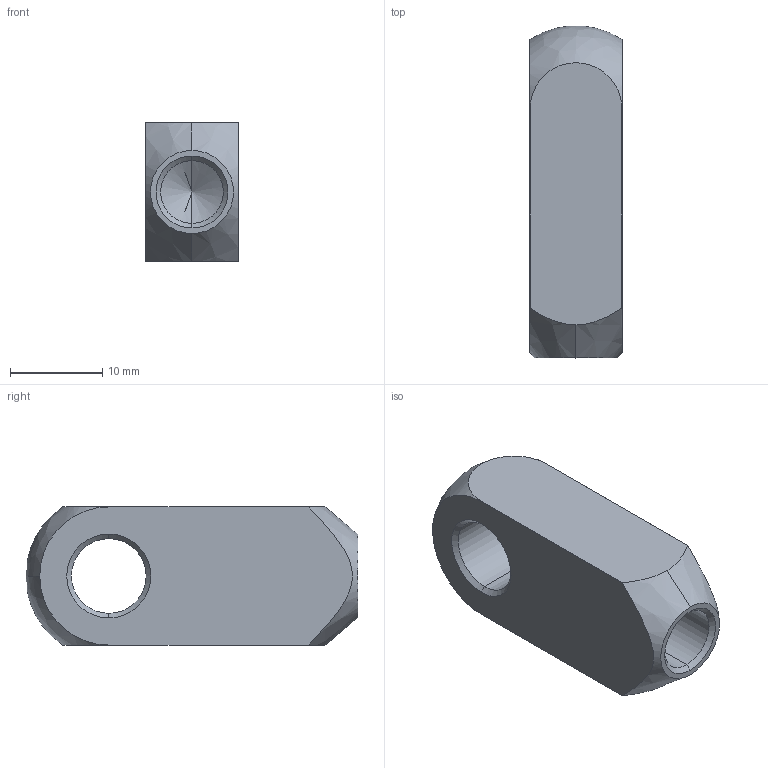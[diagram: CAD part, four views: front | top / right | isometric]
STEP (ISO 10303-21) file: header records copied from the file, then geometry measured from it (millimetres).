
FILE_DESCRIPTION (( 'STEP AP214' ), '1' );
FILE_NAME ('18.08A1FASE27.STEP', '2017-10-21T13:16:19', ( '' ), ( '' ), 'SwSTEP 2.0', 'SolidWorks 2016', '' );
FILE_SCHEMA (( 'AUTOMOTIVE_DESIGN' ));
Length unit declared in the file: millimetre
Products named in the file (1): 18.08A1FASE27
Bounding box: 10 x 35.97 x 15 mm (x, y, z)
Volume: 3971.5 mm3; surface area: 2236.8 mm2
Topology: 1 solids, 1 shells, 25 faces, 61 edges, 37 vertices
Faces by surface type: cone 10, cylinder 8, plane 5, bspline 2
Entity records: 926 total; most frequent: CARTESIAN_POINT 308, DIRECTION 128, ORIENTED_EDGE 118, EDGE_CURVE 59, AXIS2_PLACEMENT_3D 53, VERTEX_POINT 37, CIRCLE 29, EDGE_LOOP 28
